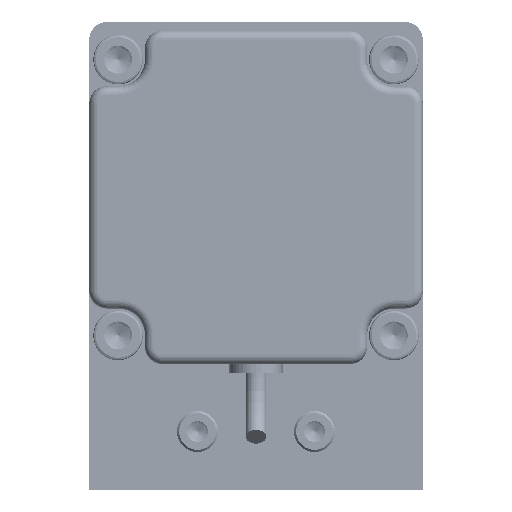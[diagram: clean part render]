
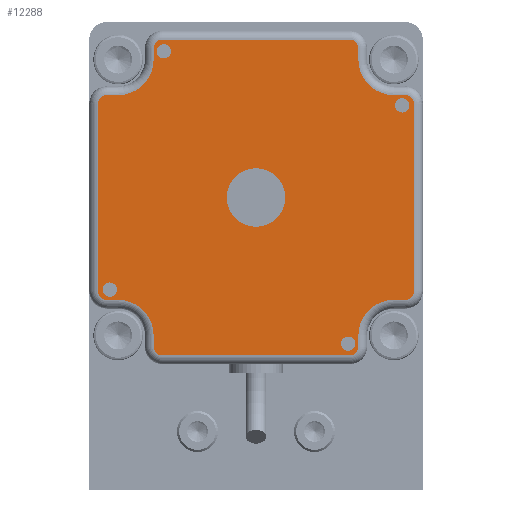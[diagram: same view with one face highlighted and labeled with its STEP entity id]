
A CAD part, left-side view. The second image highlights one B-rep face of the part: STEP entity #12288.
In plain terms, the highlighted planar face has unit normal (-1, 0, 0) as drawn and (1, 0, 0) by its records, which use the part's own axes.
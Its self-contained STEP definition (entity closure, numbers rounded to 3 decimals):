
#12288=ADVANCED_FACE('',(#54543,#54545,#54547,#54549,#54551,#54553),#54555,.T.);
#54543=FACE_BOUND('',#54544,.T.);
#54544=EDGE_LOOP('',(#61371,#61372,#61373,#61374,#61375,#61376,#61377,#61378,#61379,
#61380,#61381,#61382,#61383,#61384,#61385,#61386,#61387,#61388,#61389,#61390,#61391,
#61392,#61393,#61394));
#54545=FACE_BOUND('',#54546,.T.);
#54546=EDGE_LOOP('',(#61395));
#54547=FACE_BOUND('',#54548,.T.);
#54548=EDGE_LOOP('',(#61396));
#54549=FACE_BOUND('',#54550,.T.);
#54550=EDGE_LOOP('',(#61397));
#54551=FACE_BOUND('',#54552,.T.);
#54552=EDGE_LOOP('',(#61398));
#54553=FACE_BOUND('',#54554,.T.);
#54554=EDGE_LOOP('',(#61399));
#54555=PLANE('',#54556);
#54556=AXIS2_PLACEMENT_3D('',#54557,#54558,#54559);
#54557=CARTESIAN_POINT('',(56.,0.,0.));
#54558=DIRECTION('',(1.,0.,0.));
#54559=DIRECTION('',(0.,-0.,1.));
#61371=ORIENTED_EDGE('',*,*,#64730,.T.);
#61372=ORIENTED_EDGE('',*,*,#64731,.T.);
#61373=ORIENTED_EDGE('',*,*,#64732,.T.);
#61374=ORIENTED_EDGE('',*,*,#64733,.T.);
#61375=ORIENTED_EDGE('',*,*,#64734,.T.);
#61376=ORIENTED_EDGE('',*,*,#64735,.T.);
#61377=ORIENTED_EDGE('',*,*,#64736,.T.);
#61378=ORIENTED_EDGE('',*,*,#64737,.T.);
#61379=ORIENTED_EDGE('',*,*,#64738,.T.);
#61380=ORIENTED_EDGE('',*,*,#64739,.T.);
#61381=ORIENTED_EDGE('',*,*,#64740,.T.);
#61382=ORIENTED_EDGE('',*,*,#64741,.T.);
#61383=ORIENTED_EDGE('',*,*,#64695,.T.);
#61384=ORIENTED_EDGE('',*,*,#64729,.T.);
#61385=ORIENTED_EDGE('',*,*,#64742,.T.);
#61386=ORIENTED_EDGE('',*,*,#64743,.T.);
#61387=ORIENTED_EDGE('',*,*,#64744,.T.);
#61388=ORIENTED_EDGE('',*,*,#64745,.T.);
#61389=ORIENTED_EDGE('',*,*,#64746,.T.);
#61390=ORIENTED_EDGE('',*,*,#64747,.T.);
#61391=ORIENTED_EDGE('',*,*,#64748,.T.);
#61392=ORIENTED_EDGE('',*,*,#64749,.T.);
#61393=ORIENTED_EDGE('',*,*,#64750,.T.);
#61394=ORIENTED_EDGE('',*,*,#64751,.T.);
#61395=ORIENTED_EDGE('',*,*,#64752,.T.);
#61396=ORIENTED_EDGE('',*,*,#64753,.T.);
#61397=ORIENTED_EDGE('',*,*,#64754,.T.);
#61398=ORIENTED_EDGE('',*,*,#64755,.T.);
#61399=ORIENTED_EDGE('',*,*,#64756,.T.);
#64695=EDGE_CURVE('',#69342,#69340,#69343,.T.);
#64729=EDGE_CURVE('',#69340,#69404,#69406,.T.);
#64730=EDGE_CURVE('',#69407,#69408,#69409,.T.);
#64731=EDGE_CURVE('',#69408,#69410,#69411,.T.);
#64732=EDGE_CURVE('',#69410,#69412,#69413,.T.);
#64733=EDGE_CURVE('',#69412,#69414,#69415,.T.);
#64734=EDGE_CURVE('',#69414,#69416,#69417,.T.);
#64735=EDGE_CURVE('',#69416,#69418,#69419,.T.);
#64736=EDGE_CURVE('',#69418,#69420,#69421,.T.);
#64737=EDGE_CURVE('',#69420,#69422,#69423,.T.);
#64738=EDGE_CURVE('',#69422,#69424,#69425,.T.);
#64739=EDGE_CURVE('',#69424,#69426,#69427,.T.);
#64740=EDGE_CURVE('',#69426,#69428,#69429,.T.);
#64741=EDGE_CURVE('',#69428,#69342,#69430,.T.);
#64742=EDGE_CURVE('',#69404,#69431,#69432,.T.);
#64743=EDGE_CURVE('',#69431,#69433,#69434,.T.);
#64744=EDGE_CURVE('',#69433,#69435,#69436,.T.);
#64745=EDGE_CURVE('',#69435,#69437,#69438,.T.);
#64746=EDGE_CURVE('',#69437,#69439,#69440,.T.);
#64747=EDGE_CURVE('',#69439,#69441,#69442,.T.);
#64748=EDGE_CURVE('',#69441,#69443,#69444,.T.);
#64749=EDGE_CURVE('',#69443,#69445,#69446,.T.);
#64750=EDGE_CURVE('',#69445,#69447,#69448,.T.);
#64751=EDGE_CURVE('',#69447,#69407,#69449,.T.);
#64752=EDGE_CURVE('',#69450,#69450,#69451,.T.);
#64753=EDGE_CURVE('',#69452,#69452,#69453,.T.);
#64754=EDGE_CURVE('',#69454,#69454,#69455,.T.);
#64755=EDGE_CURVE('',#69456,#69456,#69457,.F.);
#64756=EDGE_CURVE('',#69458,#69458,#69459,.T.);
#69340=VERTEX_POINT('',#98545);
#69342=VERTEX_POINT('',#98550);
#69343=LINE('',#98551,#98552);
#69404=VERTEX_POINT('',#98697);
#69406=CIRCLE('',#98702,1.5);
#69407=VERTEX_POINT('',#98706);
#69408=VERTEX_POINT('',#98707);
#69409=LINE('',#98708,#98709);
#69410=VERTEX_POINT('',#98711);
#69411=CIRCLE('',#98712,1.5);
#69412=VERTEX_POINT('',#98716);
#69413=LINE('',#98717,#98718);
#69414=VERTEX_POINT('',#98720);
#69415=CIRCLE('',#98721,6.07);
#69416=VERTEX_POINT('',#98725);
#69417=LINE('',#98726,#98727);
#69418=VERTEX_POINT('',#98729);
#69419=CIRCLE('',#98730,1.5);
#69420=VERTEX_POINT('',#98734);
#69421=LINE('',#98735,#98736);
#69422=VERTEX_POINT('',#98738);
#69423=CIRCLE('',#98739,1.5);
#69424=VERTEX_POINT('',#98743);
#69425=LINE('',#98744,#98745);
#69426=VERTEX_POINT('',#98747);
#69427=CIRCLE('',#98748,6.07);
#69428=VERTEX_POINT('',#98752);
#69429=LINE('',#98753,#98754);
#69430=CIRCLE('',#98756,1.5);
#69431=VERTEX_POINT('',#98760);
#69432=LINE('',#98761,#98762);
#69433=VERTEX_POINT('',#98764);
#69434=CIRCLE('',#98765,6.07);
#69435=VERTEX_POINT('',#98769);
#69436=LINE('',#98770,#98771);
#69437=VERTEX_POINT('',#98773);
#69438=CIRCLE('',#98774,1.5);
#69439=VERTEX_POINT('',#98778);
#69440=LINE('',#98779,#98780);
#69441=VERTEX_POINT('',#98782);
#69442=CIRCLE('',#98783,1.5);
#69443=VERTEX_POINT('',#98787);
#69444=LINE('',#98788,#98789);
#69445=VERTEX_POINT('',#98791);
#69446=CIRCLE('',#98792,6.07);
#69447=VERTEX_POINT('',#98796);
#69448=LINE('',#98797,#98798);
#69449=CIRCLE('',#98800,1.5);
#69450=VERTEX_POINT('',#98804);
#69451=CIRCLE('',#98805,1.229);
#69452=VERTEX_POINT('',#98809);
#69453=CIRCLE('',#98810,1.229);
#69454=VERTEX_POINT('',#98814);
#69455=CIRCLE('',#98815,1.229);
#69456=VERTEX_POINT('',#98819);
#69457=CIRCLE('',#98820,5.);
#69458=VERTEX_POINT('',#98824);
#69459=CIRCLE('',#98825,1.229);
#98545=CARTESIAN_POINT('',(56.,16.,-27.));
#98550=CARTESIAN_POINT('',(56.,-16.,-27.));
#98551=CARTESIAN_POINT('',(56.,-16.,-27.));
#98552=VECTOR('',#98553,1.);
#98553=DIRECTION('',(0.,1.,0.));
#98697=CARTESIAN_POINT('',(56.,17.5,-25.5));
#98702=AXIS2_PLACEMENT_3D('',#98703,#98704,#98705);
#98703=CARTESIAN_POINT('',(56.,16.,-25.5));
#98704=DIRECTION('',(1.,0.,0.));
#98705=DIRECTION('',(0.,0.,-1.));
#98706=CARTESIAN_POINT('',(56.,16.,27.));
#98707=CARTESIAN_POINT('',(56.,-16.,27.));
#98708=CARTESIAN_POINT('',(56.,16.,27.));
#98709=VECTOR('',#98710,1.);
#98710=DIRECTION('',(0.,-1.,0.));
#98711=CARTESIAN_POINT('',(56.,-17.5,25.5));
#98712=AXIS2_PLACEMENT_3D('',#98713,#98714,#98715);
#98713=CARTESIAN_POINT('',(56.,-16.,25.5));
#98714=DIRECTION('',(1.,0.,0.));
#98715=DIRECTION('',(0.,0.,1.));
#98716=CARTESIAN_POINT('',(56.,-17.5,23.57));
#98717=CARTESIAN_POINT('',(56.,-17.5,25.5));
#98718=VECTOR('',#98719,1.);
#98719=DIRECTION('',(0.,0.,-1.));
#98720=CARTESIAN_POINT('',(56.,-23.57,17.5));
#98721=AXIS2_PLACEMENT_3D('',#98722,#98723,#98724);
#98722=CARTESIAN_POINT('',(56.,-23.57,23.57));
#98723=DIRECTION('',(-1.,-0.,0.));
#98724=DIRECTION('',(0.,1.,0.));
#98725=CARTESIAN_POINT('',(56.,-25.5,17.5));
#98726=CARTESIAN_POINT('',(56.,-23.57,17.5));
#98727=VECTOR('',#98728,1.);
#98728=DIRECTION('',(0.,-1.,0.));
#98729=CARTESIAN_POINT('',(56.,-27.,16.));
#98730=AXIS2_PLACEMENT_3D('',#98731,#98732,#98733);
#98731=CARTESIAN_POINT('',(56.,-25.5,16.));
#98732=DIRECTION('',(1.,0.,0.));
#98733=DIRECTION('',(0.,0.,1.));
#98734=CARTESIAN_POINT('',(56.,-27.,-16.));
#98735=CARTESIAN_POINT('',(56.,-27.,16.));
#98736=VECTOR('',#98737,1.);
#98737=DIRECTION('',(0.,0.,-1.));
#98738=CARTESIAN_POINT('',(56.,-25.5,-17.5));
#98739=AXIS2_PLACEMENT_3D('',#98740,#98741,#98742);
#98740=CARTESIAN_POINT('',(56.,-25.5,-16.));
#98741=DIRECTION('',(1.,0.,0.));
#98742=DIRECTION('',(0.,-1.,0.));
#98743=CARTESIAN_POINT('',(56.,-23.57,-17.5));
#98744=CARTESIAN_POINT('',(56.,-25.5,-17.5));
#98745=VECTOR('',#98746,1.);
#98746=DIRECTION('',(0.,1.,0.));
#98747=CARTESIAN_POINT('',(56.,-17.5,-23.57));
#98748=AXIS2_PLACEMENT_3D('',#98749,#98750,#98751);
#98749=CARTESIAN_POINT('',(56.,-23.57,-23.57));
#98750=DIRECTION('',(-1.,-0.,0.));
#98751=DIRECTION('',(0.,0.,1.));
#98752=CARTESIAN_POINT('',(56.,-17.5,-25.5));
#98753=CARTESIAN_POINT('',(56.,-17.5,-23.57));
#98754=VECTOR('',#98755,1.);
#98755=DIRECTION('',(0.,0.,-1.));
#98756=AXIS2_PLACEMENT_3D('',#98757,#98758,#98759);
#98757=CARTESIAN_POINT('',(56.,-16.,-25.5));
#98758=DIRECTION('',(1.,0.,0.));
#98759=DIRECTION('',(0.,-1.,0.));
#98760=CARTESIAN_POINT('',(56.,17.5,-23.57));
#98761=CARTESIAN_POINT('',(56.,17.5,-25.5));
#98762=VECTOR('',#98763,1.);
#98763=DIRECTION('',(0.,0.,1.));
#98764=CARTESIAN_POINT('',(56.,23.57,-17.5));
#98765=AXIS2_PLACEMENT_3D('',#98766,#98767,#98768);
#98766=CARTESIAN_POINT('',(56.,23.57,-23.57));
#98767=DIRECTION('',(-1.,0.,0.));
#98768=DIRECTION('',(0.,-1.,0.));
#98769=CARTESIAN_POINT('',(56.,25.5,-17.5));
#98770=CARTESIAN_POINT('',(56.,23.57,-17.5));
#98771=VECTOR('',#98772,1.);
#98772=DIRECTION('',(0.,1.,0.));
#98773=CARTESIAN_POINT('',(56.,27.,-16.));
#98774=AXIS2_PLACEMENT_3D('',#98775,#98776,#98777);
#98775=CARTESIAN_POINT('',(56.,25.5,-16.));
#98776=DIRECTION('',(1.,0.,0.));
#98777=DIRECTION('',(0.,0.,-1.));
#98778=CARTESIAN_POINT('',(56.,27.,16.));
#98779=CARTESIAN_POINT('',(56.,27.,-16.));
#98780=VECTOR('',#98781,1.);
#98781=DIRECTION('',(0.,0.,1.));
#98782=CARTESIAN_POINT('',(56.,25.5,17.5));
#98783=AXIS2_PLACEMENT_3D('',#98784,#98785,#98786);
#98784=CARTESIAN_POINT('',(56.,25.5,16.));
#98785=DIRECTION('',(1.,0.,-0.));
#98786=DIRECTION('',(0.,1.,0.));
#98787=CARTESIAN_POINT('',(56.,23.57,17.5));
#98788=CARTESIAN_POINT('',(56.,25.5,17.5));
#98789=VECTOR('',#98790,1.);
#98790=DIRECTION('',(0.,-1.,0.));
#98791=CARTESIAN_POINT('',(56.,17.5,23.57));
#98792=AXIS2_PLACEMENT_3D('',#98793,#98794,#98795);
#98793=CARTESIAN_POINT('',(56.,23.57,23.57));
#98794=DIRECTION('',(-1.,-0.,0.));
#98795=DIRECTION('',(0.,0.,-1.));
#98796=CARTESIAN_POINT('',(56.,17.5,25.5));
#98797=CARTESIAN_POINT('',(56.,17.5,23.57));
#98798=VECTOR('',#98799,1.);
#98799=DIRECTION('',(0.,0.,1.));
#98800=AXIS2_PLACEMENT_3D('',#98801,#98802,#98803);
#98801=CARTESIAN_POINT('',(56.,16.,25.5));
#98802=DIRECTION('',(1.,0.,-0.));
#98803=DIRECTION('',(0.,1.,0.));
#98804=CARTESIAN_POINT('',(56.,25.,14.521));
#98805=AXIS2_PLACEMENT_3D('',#98806,#98807,#98808);
#98806=CARTESIAN_POINT('',(56.,25.,15.75));
#98807=DIRECTION('',(-1.,-0.,-0.));
#98808=DIRECTION('',(0.,0.,-1.));
#98809=CARTESIAN_POINT('',(56.,-25.,-14.521));
#98810=AXIS2_PLACEMENT_3D('',#98811,#98812,#98813);
#98811=CARTESIAN_POINT('',(56.,-25.,-15.75));
#98812=DIRECTION('',(-1.,-0.,-0.));
#98813=DIRECTION('',(0.,-0.,1.));
#98814=CARTESIAN_POINT('',(56.,-14.521,25.));
#98815=AXIS2_PLACEMENT_3D('',#98816,#98817,#98818);
#98816=CARTESIAN_POINT('',(56.,-15.75,25.));
#98817=DIRECTION('',(-1.,-0.,-0.));
#98818=DIRECTION('',(-0.,1.,0.));
#98819=CARTESIAN_POINT('',(56.,0.,5.));
#98820=AXIS2_PLACEMENT_3D('',#98821,#98822,#98823);
#98821=CARTESIAN_POINT('',(56.,0.,0.));
#98822=DIRECTION('',(1.,0.,0.));
#98823=DIRECTION('',(0.,-0.,1.));
#98824=CARTESIAN_POINT('',(56.,14.521,-25.));
#98825=AXIS2_PLACEMENT_3D('',#98826,#98827,#98828);
#98826=CARTESIAN_POINT('',(56.,15.75,-25.));
#98827=DIRECTION('',(-1.,-0.,-0.));
#98828=DIRECTION('',(0.,-1.,0.));
